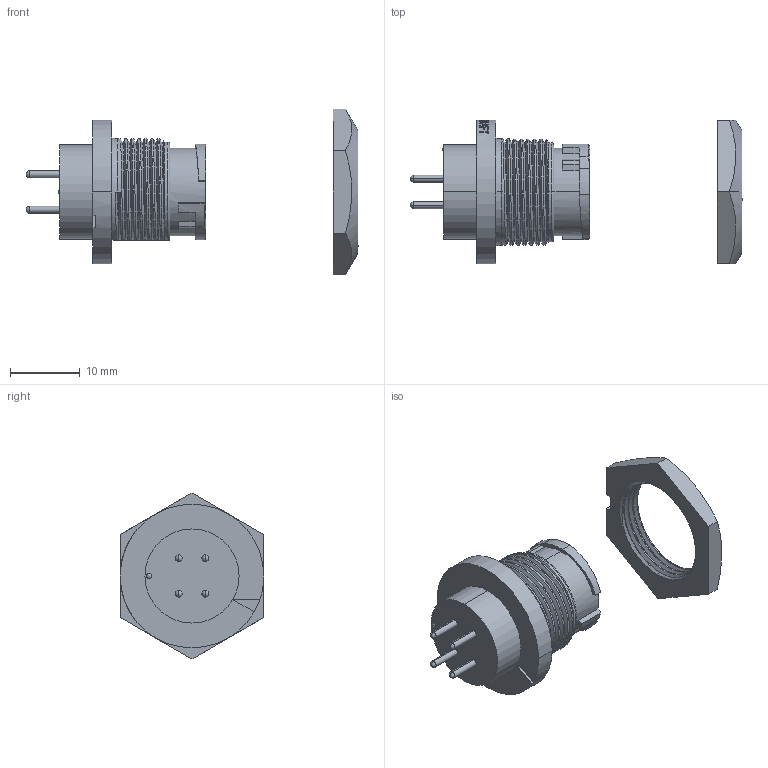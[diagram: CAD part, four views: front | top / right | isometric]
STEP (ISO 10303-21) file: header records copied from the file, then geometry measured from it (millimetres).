
FILE_DESCRIPTION (( 'STEP AP214' ), '1' );
FILE_NAME ('EN3P4FPX.STEP', '2014-07-01T16:44:18', ( '' ), ( '' ), 'SwSTEP 2.0', 'SolidWorks 2014', '' );
FILE_SCHEMA (( 'AUTOMOTIVE_DESIGN' ));
Length unit declared in the file: inch
Products named in the file (1): EN3P4FPX
Bounding box: 47.68 x 20.64 x 23.83 mm (x, y, z)
Volume: 3925.1 mm3; surface area: 3217.7 mm2
Topology: 2 solids, 2 shells, 393 faces, 1072 edges, 680 vertices
Faces by surface type: bspline 164, plane 118, cylinder 81, cone 30
Entity records: 30394 total; most frequent: CARTESIAN_POINT 21370, ORIENTED_EDGE 2086, DIRECTION 1356, EDGE_CURVE 1043, VERTEX_POINT 680, AXIS2_PLACEMENT_3D 481, EDGE_LOOP 421, LINE 394
